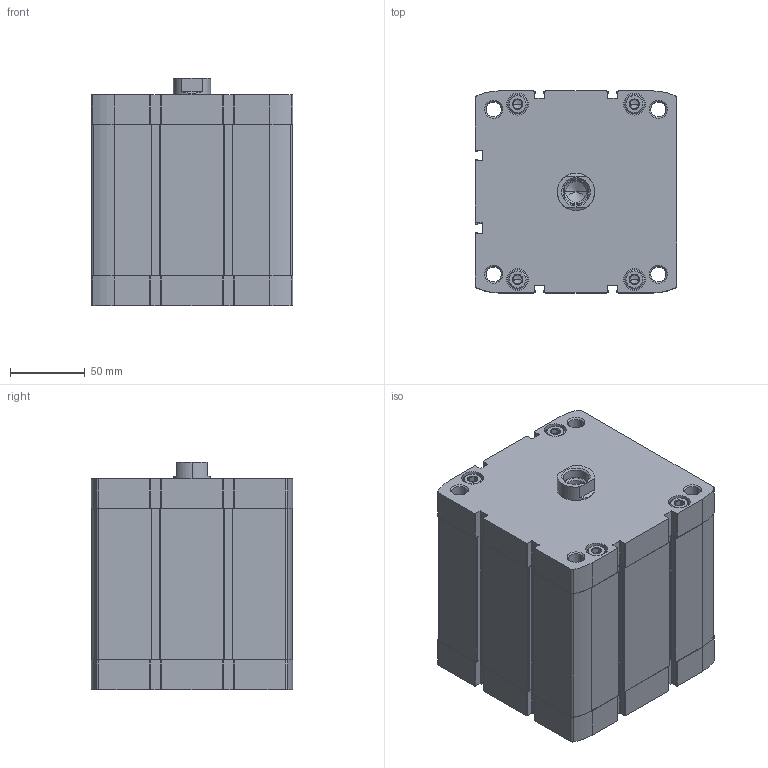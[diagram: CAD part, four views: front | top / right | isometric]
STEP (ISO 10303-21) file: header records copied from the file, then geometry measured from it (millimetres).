
FILE_DESCRIPTION (( 'STEP AP203' ), '1' );
FILE_NAME ('CCN125-60F.STEP', '2020-06-05T19:29:26', ( '' ), ( '' ), 'SwSTEP 2.0', 'SolidWorks 2019', '' );
FILE_SCHEMA (( 'CONFIG_CONTROL_DESIGN' ));
Length unit declared in the file: millimetre
Products named in the file (1): CCN125-60F
Bounding box: 134.6 x 134.6 x 152 mm (x, y, z)
Volume: 1733214.3 mm3; surface area: 252945.9 mm2
Topology: 2 solids, 2 shells, 535 faces, 1370 edges, 861 vertices
Faces by surface type: plane 267, cylinder 194, cone 74
Entity records: 17215 total; most frequent: CARTESIAN_POINT 3931, DIRECTION 2876, ORIENTED_EDGE 2704, EDGE_CURVE 1352, AXIS2_PLACEMENT_3D 1054, VERTEX_POINT 861, LINE 768, VECTOR 768
